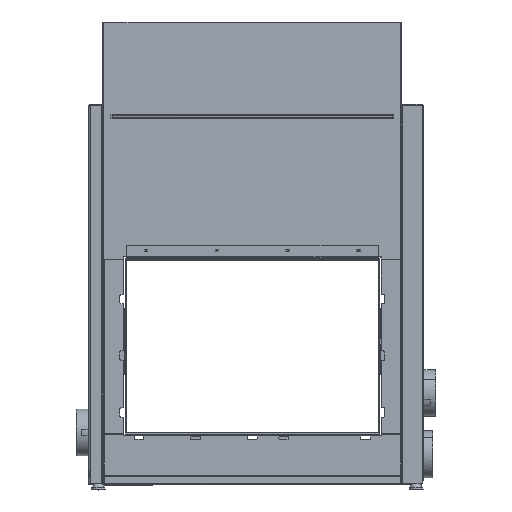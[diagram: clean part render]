
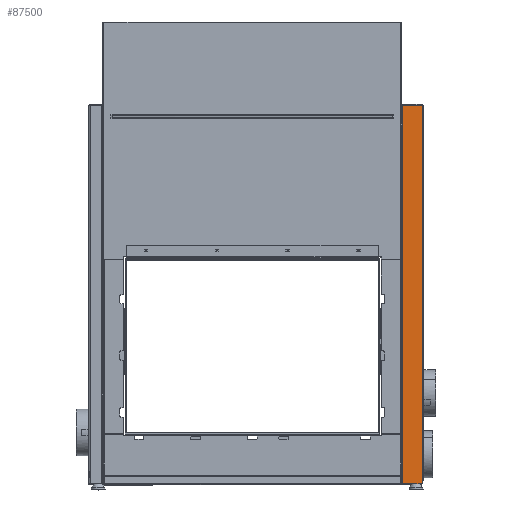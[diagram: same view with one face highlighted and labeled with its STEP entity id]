
A CAD part, top view. The second image highlights one B-rep face of the part: STEP entity #87500.
In plain terms, the highlighted planar face has unit normal (0, 0, 1).
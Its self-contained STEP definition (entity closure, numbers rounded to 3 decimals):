
#3434 = DIRECTION ( 'NONE',  ( 0., 0., 1. ) ) ;
#6936 = EDGE_CURVE ( 'NONE', #43197, #85261, #124949, .T. ) ;
#7621 = VECTOR ( 'NONE', #53789, 1000. ) ;
#8307 = VERTEX_POINT ( 'NONE', #15076 ) ;
#11742 = EDGE_LOOP ( 'NONE', ( #38522, #25628, #143621, #137115, #30217, #143456, #43009 ) ) ;
#12956 = EDGE_CURVE ( 'NONE', #85261, #128828, #47141, .T. ) ;
#15076 = CARTESIAN_POINT ( 'NONE',  ( 539.5, -29.48, 205. ) ) ;
#15326 = VECTOR ( 'NONE', #88630, 1000. ) ;
#16449 = VECTOR ( 'NONE', #49948, 1000. ) ;
#25628 = ORIENTED_EDGE ( 'NONE', *, *, #12956, .T. ) ;
#26026 = DIRECTION ( 'NONE',  ( 0., -1., 0. ) ) ;
#28321 = DIRECTION ( 'NONE',  ( -1., 0., 0. ) ) ;
#30217 = ORIENTED_EDGE ( 'NONE', *, *, #49227, .T. ) ;
#37749 = CARTESIAN_POINT ( 'NONE',  ( 477.5, 1134.5, 205. ) ) ;
#38522 = ORIENTED_EDGE ( 'NONE', *, *, #6936, .T. ) ;
#43009 = ORIENTED_EDGE ( 'NONE', *, *, #140885, .T. ) ;
#43197 = VERTEX_POINT ( 'NONE', #129859 ) ;
#45096 = VECTOR ( 'NONE', #112481, 1000. ) ;
#45644 = FACE_OUTER_BOUND ( 'NONE', #11742, .T. ) ;
#47141 = CIRCLE ( 'NONE', #119281, 3. ) ;
#49227 = EDGE_CURVE ( 'NONE', #131488, #58775, #115176, .T. ) ;
#49948 = DIRECTION ( 'NONE',  ( 0., -1., 0. ) ) ;
#51022 = VECTOR ( 'NONE', #144815, 1000. ) ;
#52509 = CARTESIAN_POINT ( 'NONE',  ( 536.5, -68., 205. ) ) ;
#53789 = DIRECTION ( 'NONE',  ( 0., -1., 0. ) ) ;
#58775 = VERTEX_POINT ( 'NONE', #59251 ) ;
#59251 = CARTESIAN_POINT ( 'NONE',  ( 477.5, 1135.429, 205. ) ) ;
#60766 = CARTESIAN_POINT ( 'NONE',  ( 539.5, 1135.429, 205. ) ) ;
#64198 = CARTESIAN_POINT ( 'NONE',  ( 539.5, -65., 205. ) ) ;
#72170 = PLANE ( 'NONE',  #74458 ) ;
#72675 = DIRECTION ( 'NONE',  ( 0., -1., 0. ) ) ;
#74458 = AXIS2_PLACEMENT_3D ( 'NONE', #128743, #140065, #72675 ) ;
#75088 = LINE ( 'NONE', #76821, #15326 ) ;
#76821 = CARTESIAN_POINT ( 'NONE',  ( 539.5, 1134.5, 205. ) ) ;
#81057 = CARTESIAN_POINT ( 'NONE',  ( 536.5, -65., 205. ) ) ;
#81415 = LINE ( 'NONE', #131080, #7621 ) ;
#84958 = LINE ( 'NONE', #37749, #16449 ) ;
#85261 = VERTEX_POINT ( 'NONE', #52509 ) ;
#87500 = ADVANCED_FACE ( 'NONE', ( #45644 ), #72170, .F. ) ;
#88630 = DIRECTION ( 'NONE',  ( 0., -1., 0. ) ) ;
#88802 = VECTOR ( 'NONE', #28321, 1000. ) ;
#90368 = CARTESIAN_POINT ( 'NONE',  ( 477.5, 1135.429, 205. ) ) ;
#90794 = LINE ( 'NONE', #90368, #45096 ) ;
#93426 = EDGE_CURVE ( 'NONE', #58775, #137650, #90794, .T. ) ;
#112481 = DIRECTION ( 'NONE',  ( 0., -1., 0. ) ) ;
#115176 = LINE ( 'NONE', #60766, #88802 ) ;
#119281 = AXIS2_PLACEMENT_3D ( 'NONE', #81057, #3434, #26026 ) ;
#124949 = LINE ( 'NONE', #133550, #51022 ) ;
#127486 = EDGE_CURVE ( 'NONE', #8307, #128828, #75088, .T. ) ;
#128743 = CARTESIAN_POINT ( 'NONE',  ( 542.5, 1134.5, 205. ) ) ;
#128828 = VERTEX_POINT ( 'NONE', #64198 ) ;
#129397 = CARTESIAN_POINT ( 'NONE',  ( 539.5, 1135.429, 205. ) ) ;
#129859 = CARTESIAN_POINT ( 'NONE',  ( 477.5, -68., 205. ) ) ;
#131080 = CARTESIAN_POINT ( 'NONE',  ( 539.5, 1134.5, 205. ) ) ;
#131488 = VERTEX_POINT ( 'NONE', #129397 ) ;
#133550 = CARTESIAN_POINT ( 'NONE',  ( 542.5, -68., 205. ) ) ;
#133715 = CARTESIAN_POINT ( 'NONE',  ( 477.5, 1134.5, 205. ) ) ;
#134041 = EDGE_CURVE ( 'NONE', #131488, #8307, #81415, .T. ) ;
#137115 = ORIENTED_EDGE ( 'NONE', *, *, #134041, .F. ) ;
#137650 = VERTEX_POINT ( 'NONE', #133715 ) ;
#140065 = DIRECTION ( 'NONE',  ( 0., 0., -1. ) ) ;
#140885 = EDGE_CURVE ( 'NONE', #137650, #43197, #84958, .T. ) ;
#143456 = ORIENTED_EDGE ( 'NONE', *, *, #93426, .T. ) ;
#143621 = ORIENTED_EDGE ( 'NONE', *, *, #127486, .F. ) ;
#144815 = DIRECTION ( 'NONE',  ( 1., 0., 0. ) ) ;
